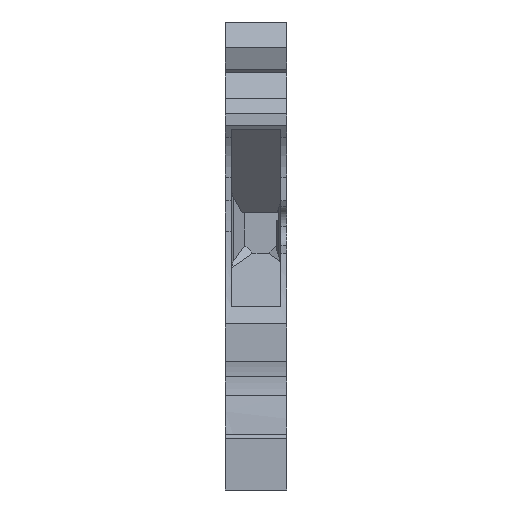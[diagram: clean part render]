
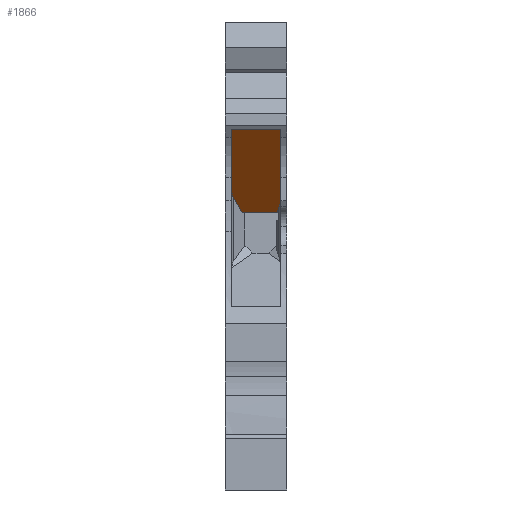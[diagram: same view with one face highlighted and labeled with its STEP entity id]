
A CAD part, front view. The second image highlights one B-rep face of the part: STEP entity #1866.
In plain terms, the highlighted planar face has unit normal (0, -0.715, -0.699).
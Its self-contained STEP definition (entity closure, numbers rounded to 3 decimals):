
#1635=CARTESIAN_POINT('',(5.55,2.428,36.125));
#1636=VERTEX_POINT('',#1635);
#1643=CARTESIAN_POINT('',(5.55,9.058,29.34));
#1644=VERTEX_POINT('',#1643);
#1645=CARTESIAN_POINT('',(5.55,2.428,36.125));
#1646=DIRECTION('',(-0.,0.699,-0.715));
#1647=VECTOR('',#1646,9.486);
#1648=LINE('',#1645,#1647);
#1649=EDGE_CURVE('',#1636,#1644,#1648,.T.);
#1763=CARTESIAN_POINT('',(0.6,8.201,30.217));
#1764=VERTEX_POINT('',#1763);
#1770=CARTESIAN_POINT('',(0.6,2.428,36.125));
#1771=VERTEX_POINT('',#1770);
#1772=CARTESIAN_POINT('',(0.6,8.201,30.217));
#1773=DIRECTION('',(0.,-0.699,0.715));
#1774=VECTOR('',#1773,8.26);
#1775=LINE('',#1772,#1774);
#1776=EDGE_CURVE('',#1764,#1771,#1775,.T.);
#1815=CARTESIAN_POINT('',(6.765,10.275,28.095));
#1816=DIRECTION('',(-0.,0.715,0.699));
#1817=DIRECTION('',(-1.,-0.,0.));
#1818=AXIS2_PLACEMENT_3D('',#1815,#1816,#1817);
#1819=PLANE('',#1818);
#1820=CARTESIAN_POINT('',(0.6,2.428,36.125));
#1821=DIRECTION('',(1.,0.,-0.));
#1822=VECTOR('',#1821,4.95);
#1823=LINE('',#1820,#1822);
#1824=EDGE_CURVE('',#1771,#1636,#1823,.T.);
#1825=ORIENTED_EDGE('',*,*,#1824,.F.);
#1826=ORIENTED_EDGE('',*,*,#1776,.F.);
#1827=CARTESIAN_POINT('',(0.868,9.201,29.194));
#1828=VERTEX_POINT('',#1827);
#1829=CARTESIAN_POINT('',(0.868,9.201,29.194));
#1830=CARTESIAN_POINT('',(0.6,8.737,29.669));
#1831=CARTESIAN_POINT('',(0.6,8.201,30.217));
#1832=(BOUNDED_CURVE()
B_SPLINE_CURVE(2,(#1829,#1830,#1831),.UNSPECIFIED.,.F.,.F.)
B_SPLINE_CURVE_WITH_KNOTS((3,3),(240.,270.),.UNSPECIFIED.)
CURVE()
GEOMETRIC_REPRESENTATION_ITEM()
RATIONAL_B_SPLINE_CURVE((1.,0.966,1.))
REPRESENTATION_ITEM(''));
#1833=EDGE_CURVE('',#1828,#1764,#1832,.T.);
#1834=ORIENTED_EDGE('',*,*,#1833,.F.);
#1835=CARTESIAN_POINT('',(1.678,10.605,27.757));
#1836=VERTEX_POINT('',#1835);
#1837=CARTESIAN_POINT('',(1.678,10.605,27.757));
#1838=CARTESIAN_POINT('',(0.868,9.201,29.194));
#1839=B_SPLINE_CURVE_WITH_KNOTS('',1,(#1837,#1838),.UNSPECIFIED.,.F.,.F.,(2,2),(0.,2.166),.UNSPECIFIED.);
#1840=EDGE_CURVE('',#1836,#1828,#1839,.T.);
#1841=ORIENTED_EDGE('',*,*,#1840,.F.);
#1842=CARTESIAN_POINT('',(5.176,10.605,27.757));
#1843=VERTEX_POINT('',#1842);
#1844=CARTESIAN_POINT('',(1.678,10.605,27.757));
#1845=DIRECTION('',(1.,0.,-0.));
#1846=VECTOR('',#1845,3.498);
#1847=LINE('',#1844,#1846);
#1848=EDGE_CURVE('',#1836,#1843,#1847,.T.);
#1849=ORIENTED_EDGE('',*,*,#1848,.T.);
#1850=CARTESIAN_POINT('',(5.363,10.101,28.273));
#1851=VERTEX_POINT('',#1850);
#1852=CARTESIAN_POINT('',(5.176,10.605,27.757));
#1853=CARTESIAN_POINT('',(5.363,10.101,28.273));
#1854=B_SPLINE_CURVE_WITH_KNOTS('',1,(#1852,#1853),.UNSPECIFIED.,.F.,.F.,(2,2),(0.,0.745),.UNSPECIFIED.);
#1855=EDGE_CURVE('',#1843,#1851,#1854,.T.);
#1856=ORIENTED_EDGE('',*,*,#1855,.T.);
#1857=CARTESIAN_POINT('',(5.55,9.058,29.34));
#1858=CARTESIAN_POINT('',(5.55,9.596,28.789));
#1859=CARTESIAN_POINT('',(5.363,10.101,28.273));
#1860=(BOUNDED_CURVE()
B_SPLINE_CURVE(2,(#1857,#1858,#1859),.UNSPECIFIED.,.F.,.F.)
B_SPLINE_CURVE_WITH_KNOTS((3,3),(90.,110.343),.UNSPECIFIED.)
CURVE()
GEOMETRIC_REPRESENTATION_ITEM()
RATIONAL_B_SPLINE_CURVE((1.,0.984,1.))
REPRESENTATION_ITEM(''));
#1861=EDGE_CURVE('',#1644,#1851,#1860,.T.);
#1862=ORIENTED_EDGE('',*,*,#1861,.F.);
#1863=ORIENTED_EDGE('',*,*,#1649,.F.);
#1864=EDGE_LOOP('',(#1825,#1826,#1834,#1841,#1849,#1856,#1862,#1863));
#1865=FACE_BOUND('',#1864,.T.);
#1866=ADVANCED_FACE('',(#1865),#1819,.F.);
